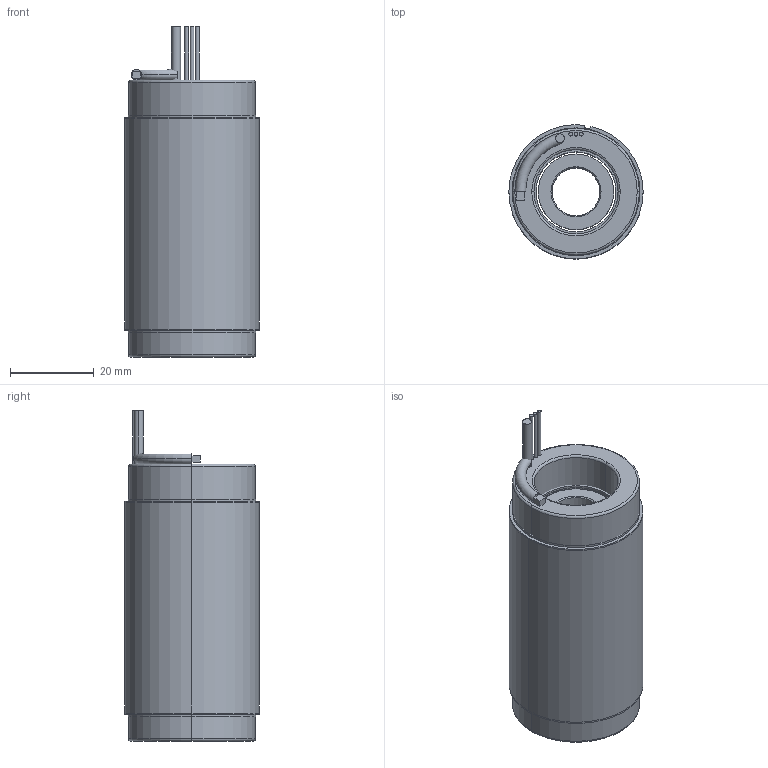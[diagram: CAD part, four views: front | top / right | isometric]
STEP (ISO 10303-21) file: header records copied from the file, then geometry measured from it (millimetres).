
FILE_DESCRIPTION (( 'STEP AP214' ), '1' );
FILE_NAME ('6100335-05.STEP', '2019-10-23T20:00:06', ( '' ), ( '' ), 'SwSTEP 2.0', 'SolidWorks 2016', '' );
FILE_SCHEMA (( 'AUTOMOTIVE_DESIGN' ));
Length unit declared in the file: millimetre
Products named in the file (11): 4400096-00; 4500538-XX_4500538-05; 4600475-00; 4450178-XX_4450178-05; 6100335-05; COMP4500538-XX(COIL)_COMP4500538-05(COIL); 4150165-XX_4150165-05; 4250359-XX_4250359-05
Assembly tree (10 placements, depth 4):
  6100335-05
    4500538-XX_4500538-05
      COMP4500538-XX(COIL)_COMP4500538-05(COIL)
      4450178-XX_4450178-05
        4450178-XX_4450178-05
        4400096-00
        4400096-00
        4600475-00
        4600475-00
    4250359-XX_4250359-05
      4150165-XX_4150165-05
Bounding box: 32 x 31.99 x 78.74 mm (x, y, z)
Volume: 61202 mm3; surface area: 29768 mm2
Topology: 12 solids, 12 shells, 90 faces, 178 edges, 112 vertices
Faces by surface type: cylinder 44, plane 32, torus 10, cone 4
Entity records: 2841 total; most frequent: DIRECTION 508, CARTESIAN_POINT 396, ORIENTED_EDGE 356, AXIS2_PLACEMENT_3D 224, EDGE_CURVE 178, CIRCLE 118, VERTEX_POINT 112, EDGE_LOOP 104
